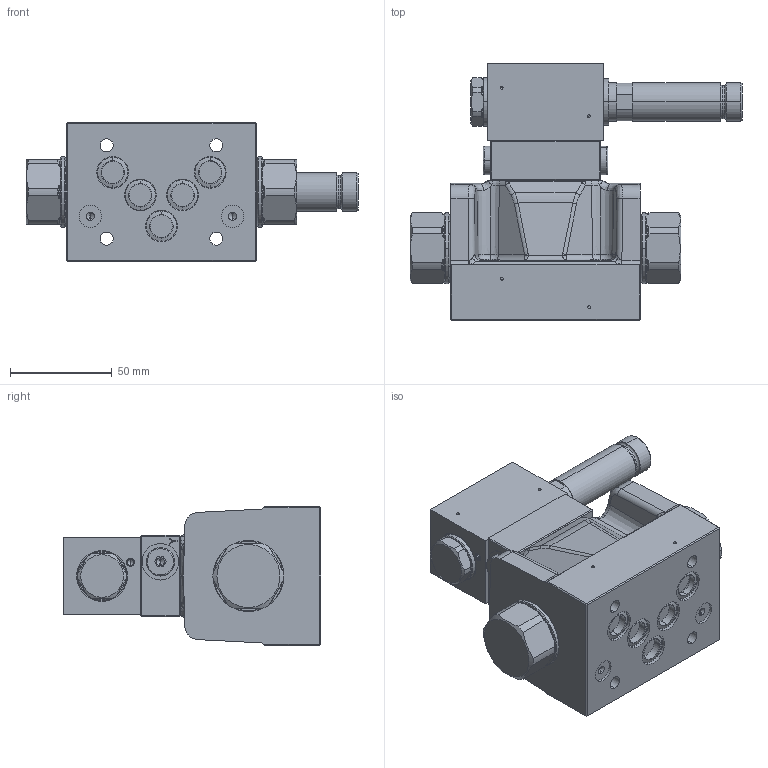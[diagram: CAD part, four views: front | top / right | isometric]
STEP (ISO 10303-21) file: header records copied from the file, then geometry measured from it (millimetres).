
FILE_DESCRIPTION (( 'STEP AP214' ), '1' );
FILE_NAME ('WVMFA10-4_2-Bside-te_pi_pe.STEP', '2017-06-15T07:27:04', ( '' ), ( '' ), 'SwSTEP 2.0', 'SolidWorks 2016', '' );
FILE_SCHEMA (( 'AUTOMOTIVE_DESIGN' ));
Length unit declared in the file: millimetre
Products named in the file (1): WVMFA10-4_2-Bside-te_pi_pe
Bounding box: 163.5 x 126.6 x 68 mm (x, y, z)
Volume: 532251.8 mm3; surface area: 80376.2 mm2
Topology: 9 solids, 9 shells, 1638 faces, 4260 edges, 2713 vertices
Faces by surface type: plane 738, cylinder 559, bspline 134, cone 124, torus 83
Entity records: 74194 total; most frequent: CARTESIAN_POINT 16600, ORIENTED_EDGE 8440, DIRECTION 8066, EDGE_CURVE 4220, AXIS2_PLACEMENT_3D 2898, VERTEX_POINT 2713, LINE 2270, VECTOR 2270
